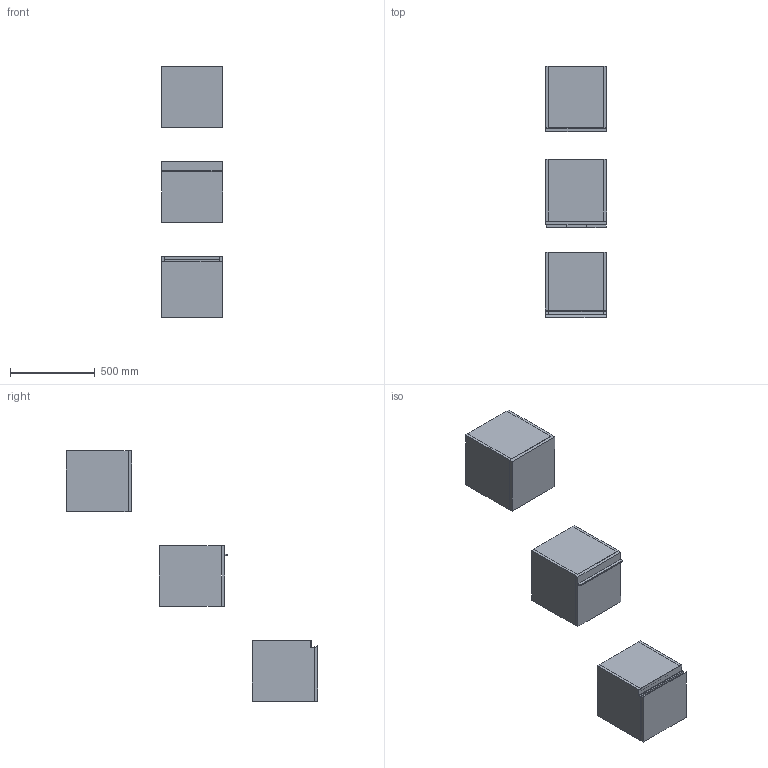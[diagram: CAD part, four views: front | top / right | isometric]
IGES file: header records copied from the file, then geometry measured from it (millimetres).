
Start section: Data from Parasolid IGES Translator 19.0.9, Copyright(c) 2006 Siemens PL M Software. All Rights Reserved.
Global section: file name: noorth-SI-H 36 D 38,8 W 36_8331.igs; native system: By Siemens PLM Incorporated; preprocessor: XPlus GENERIC/IGES 19.0.9; author: Noname; organization: Noname; date: 20200530.132724; units: metre
Bounding box: 361.02 x 1485.1 x 1480 mm (x, y, z)
Volume: 32033676.9 mm3; surface area: 4812831.1 mm2
Topology: 20 solids, 20 shells, 178 faces, 382 edges, 234 vertices
Faces by surface type: plane 134, extrusion 16, bspline 16, cylinder 12
